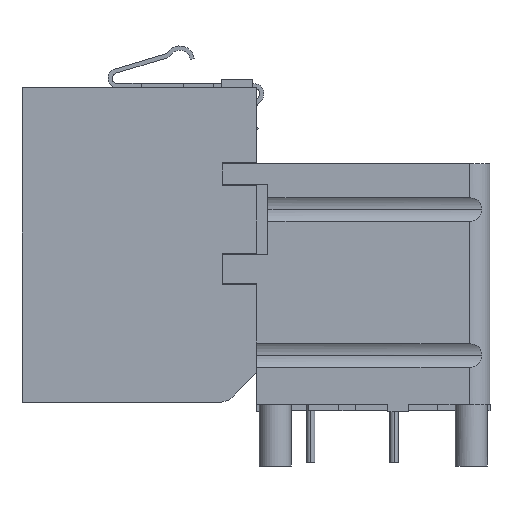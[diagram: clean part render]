
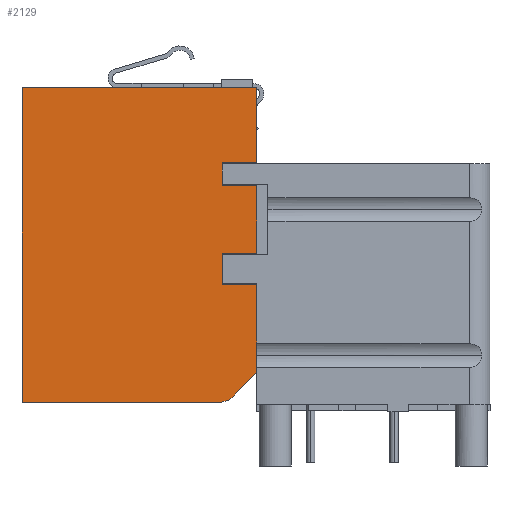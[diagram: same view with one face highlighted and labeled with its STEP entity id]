
A CAD part, front view. The second image highlights one B-rep face of the part: STEP entity #2129.
In plain terms, the highlighted planar face has unit normal (0, -1, 0).
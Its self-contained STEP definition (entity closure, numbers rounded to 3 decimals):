
#2022=AXIS2_PLACEMENT_3D('Plane Axis2P3D',#2019,#2020,#2021) ;
#2068=AXIS2_PLACEMENT_3D('Circle Axis2P3D',#2066,#2067,$) ;
#1321=CARTESIAN_POINT('Vertex',(-9.,-4.,7.1)) ;
#1335=CARTESIAN_POINT('Vertex',(-9.,-4.,-8.)) ;
#1338=CARTESIAN_POINT('Line Origine',(-9.,-4.,-0.45)) ;
#2019=CARTESIAN_POINT('Axis2P3D Location',(0.,-4.,7.1)) ;
#2024=CARTESIAN_POINT('Line Origine',(1.425,-4.,2.4)) ;
#2028=CARTESIAN_POINT('Vertex',(0.6,-4.,2.4)) ;
#2030=CARTESIAN_POINT('Vertex',(2.25,-4.,2.4)) ;
#2033=CARTESIAN_POINT('Line Origine',(0.6,-4.,2.95)) ;
#2037=CARTESIAN_POINT('Vertex',(0.6,-4.,3.5)) ;
#2040=CARTESIAN_POINT('Line Origine',(1.425,-4.,3.5)) ;
#2044=CARTESIAN_POINT('Vertex',(2.25,-4.,3.5)) ;
#2047=CARTESIAN_POINT('Line Origine',(2.25,-4.,5.3)) ;
#2051=CARTESIAN_POINT('Vertex',(2.25,-4.,7.1)) ;
#2054=CARTESIAN_POINT('Line Origine',(-3.375,-4.,7.1)) ;
#2059=CARTESIAN_POINT('Line Origine',(-4.287,-4.,-8.)) ;
#2063=CARTESIAN_POINT('Vertex',(0.425,-4.,-8.)) ;
#2066=CARTESIAN_POINT('Axis2P3D Location',(0.425,-4.,-7.)) ;
#2070=CARTESIAN_POINT('Vertex',(1.145,-4.,-7.694)) ;
#2073=CARTESIAN_POINT('Line Origine',(1.697,-4.,-7.122)) ;
#2077=CARTESIAN_POINT('Vertex',(2.25,-4.,-6.55)) ;
#2080=CARTESIAN_POINT('Line Origine',(2.25,-4.,-4.45)) ;
#2084=CARTESIAN_POINT('Vertex',(2.25,-4.,-2.35)) ;
#2087=CARTESIAN_POINT('Line Origine',(1.425,-4.,-2.35)) ;
#2091=CARTESIAN_POINT('Vertex',(0.6,-4.,-2.35)) ;
#2094=CARTESIAN_POINT('Line Origine',(0.6,-4.,-1.6)) ;
#2098=CARTESIAN_POINT('Vertex',(0.6,-4.,-0.85)) ;
#2101=CARTESIAN_POINT('Line Origine',(1.425,-4.,-0.85)) ;
#2105=CARTESIAN_POINT('Vertex',(2.25,-4.,-0.85)) ;
#2108=CARTESIAN_POINT('Line Origine',(2.25,-4.,0.775)) ;
#1339=DIRECTION('Vector Direction',(0.,0.,1.)) ;
#2020=DIRECTION('Axis2P3D Direction',(0.,-1.,0.)) ;
#2021=DIRECTION('Axis2P3D XDirection',(0.,0.,-1.)) ;
#2025=DIRECTION('Vector Direction',(1.,0.,0.)) ;
#2034=DIRECTION('Vector Direction',(0.,0.,-1.)) ;
#2041=DIRECTION('Vector Direction',(-1.,0.,0.)) ;
#2048=DIRECTION('Vector Direction',(0.,0.,1.)) ;
#2055=DIRECTION('Vector Direction',(-1.,0.,0.)) ;
#2060=DIRECTION('Vector Direction',(1.,0.,0.)) ;
#2067=DIRECTION('Axis2P3D Direction',(0.,-1.,0.)) ;
#2074=DIRECTION('Vector Direction',(-0.695,0.,-0.719)) ;
#2081=DIRECTION('Vector Direction',(0.,0.,1.)) ;
#2088=DIRECTION('Vector Direction',(-1.,0.,0.)) ;
#2095=DIRECTION('Vector Direction',(0.,0.,-1.)) ;
#2102=DIRECTION('Vector Direction',(1.,0.,0.)) ;
#2109=DIRECTION('Vector Direction',(0.,0.,1.)) ;
#1340=VECTOR('Line Direction',#1339,1.) ;
#2026=VECTOR('Line Direction',#2025,1.) ;
#2035=VECTOR('Line Direction',#2034,1.) ;
#2042=VECTOR('Line Direction',#2041,1.) ;
#2049=VECTOR('Line Direction',#2048,1.) ;
#2056=VECTOR('Line Direction',#2055,1.) ;
#2061=VECTOR('Line Direction',#2060,1.) ;
#2075=VECTOR('Line Direction',#2074,1.) ;
#2082=VECTOR('Line Direction',#2081,1.) ;
#2089=VECTOR('Line Direction',#2088,1.) ;
#2096=VECTOR('Line Direction',#2095,1.) ;
#2103=VECTOR('Line Direction',#2102,1.) ;
#2110=VECTOR('Line Direction',#2109,1.) ;
#2114=ORIENTED_EDGE('',*,*,#2032,.F.) ;
#2115=ORIENTED_EDGE('',*,*,#2039,.F.) ;
#2116=ORIENTED_EDGE('',*,*,#2046,.F.) ;
#2117=ORIENTED_EDGE('',*,*,#2053,.T.) ;
#2118=ORIENTED_EDGE('',*,*,#2058,.T.) ;
#2119=ORIENTED_EDGE('',*,*,#1342,.F.) ;
#2120=ORIENTED_EDGE('',*,*,#2065,.T.) ;
#2121=ORIENTED_EDGE('',*,*,#2072,.T.) ;
#2122=ORIENTED_EDGE('',*,*,#2079,.F.) ;
#2123=ORIENTED_EDGE('',*,*,#2086,.T.) ;
#2124=ORIENTED_EDGE('',*,*,#2093,.T.) ;
#2125=ORIENTED_EDGE('',*,*,#2100,.F.) ;
#2126=ORIENTED_EDGE('',*,*,#2107,.T.) ;
#2127=ORIENTED_EDGE('',*,*,#2112,.T.) ;
#2129=ADVANCED_FACE('KEY_A',(#2128),#2023,.T.) ;
#2069=CIRCLE('generated circle',#2068,1.) ;
#1342=EDGE_CURVE('',#1336,#1322,#1341,.T.) ;
#2032=EDGE_CURVE('',#2029,#2031,#2027,.T.) ;
#2039=EDGE_CURVE('',#2038,#2029,#2036,.T.) ;
#2046=EDGE_CURVE('',#2045,#2038,#2043,.T.) ;
#2053=EDGE_CURVE('',#2045,#2052,#2050,.T.) ;
#2058=EDGE_CURVE('',#2052,#1322,#2057,.T.) ;
#2065=EDGE_CURVE('',#1336,#2064,#2062,.T.) ;
#2072=EDGE_CURVE('',#2064,#2071,#2069,.T.) ;
#2079=EDGE_CURVE('',#2078,#2071,#2076,.T.) ;
#2086=EDGE_CURVE('',#2078,#2085,#2083,.T.) ;
#2093=EDGE_CURVE('',#2085,#2092,#2090,.T.) ;
#2100=EDGE_CURVE('',#2099,#2092,#2097,.T.) ;
#2107=EDGE_CURVE('',#2099,#2106,#2104,.T.) ;
#2112=EDGE_CURVE('',#2106,#2031,#2111,.T.) ;
#2113=EDGE_LOOP('',(#2114,#2115,#2116,#2117,#2118,#2119,#2120,#2121,#2122,#2123,#2124,#2125,#2126,#2127)) ;
#2128=FACE_OUTER_BOUND('',#2113,.T.) ;
#1341=LINE('Line',#1338,#1340) ;
#2027=LINE('Line',#2024,#2026) ;
#2036=LINE('Line',#2033,#2035) ;
#2043=LINE('Line',#2040,#2042) ;
#2050=LINE('Line',#2047,#2049) ;
#2057=LINE('Line',#2054,#2056) ;
#2062=LINE('Line',#2059,#2061) ;
#2076=LINE('Line',#2073,#2075) ;
#2083=LINE('Line',#2080,#2082) ;
#2090=LINE('Line',#2087,#2089) ;
#2097=LINE('Line',#2094,#2096) ;
#2104=LINE('Line',#2101,#2103) ;
#2111=LINE('Line',#2108,#2110) ;
#2023=PLANE('',#2022) ;
#1322=VERTEX_POINT('',#1321) ;
#1336=VERTEX_POINT('',#1335) ;
#2029=VERTEX_POINT('',#2028) ;
#2031=VERTEX_POINT('',#2030) ;
#2038=VERTEX_POINT('',#2037) ;
#2045=VERTEX_POINT('',#2044) ;
#2052=VERTEX_POINT('',#2051) ;
#2064=VERTEX_POINT('',#2063) ;
#2071=VERTEX_POINT('',#2070) ;
#2078=VERTEX_POINT('',#2077) ;
#2085=VERTEX_POINT('',#2084) ;
#2092=VERTEX_POINT('',#2091) ;
#2099=VERTEX_POINT('',#2098) ;
#2106=VERTEX_POINT('',#2105) ;
